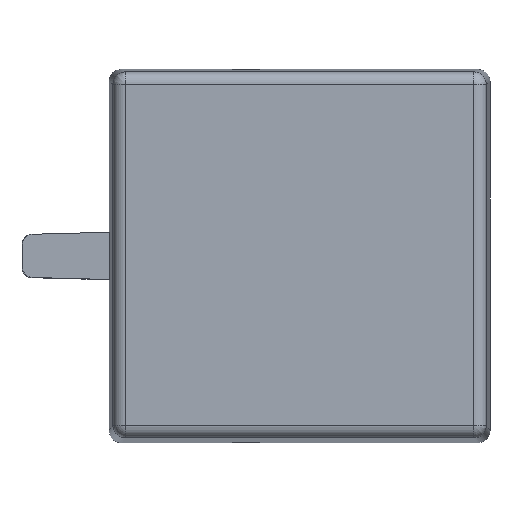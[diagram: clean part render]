
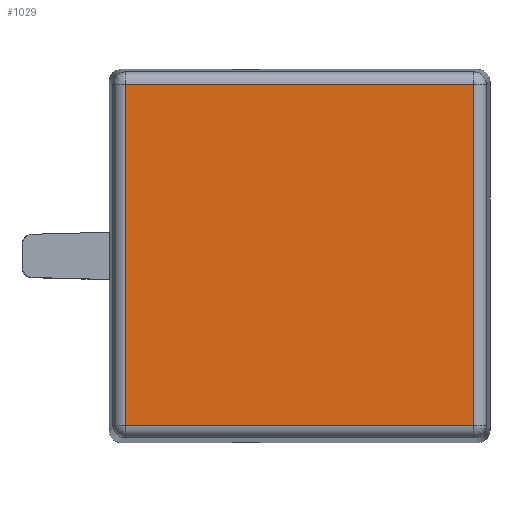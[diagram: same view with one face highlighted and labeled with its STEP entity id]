
A CAD part, top view. The second image highlights one B-rep face of the part: STEP entity #1029.
In plain terms, the highlighted planar face has unit normal (0, 0, 1).
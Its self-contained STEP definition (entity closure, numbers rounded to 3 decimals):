
#1029=ADVANCED_FACE('',(#2365),#2367,.T.);
#2365=FACE_BOUND('',#2366,.T.);
#2366=EDGE_LOOP('',(#2940,#2941,#2942,#2943));
#2367=PLANE('',#2368);
#2368=AXIS2_PLACEMENT_3D('',#2369,#2370,#2371);
#2369=CARTESIAN_POINT('',(0.,0.,29.3));
#2370=DIRECTION('',(0.,0.,1.));
#2371=DIRECTION('',(1.,0.,0.));
#2940=ORIENTED_EDGE('',*,*,#3214,.T.);
#2941=ORIENTED_EDGE('',*,*,#3211,.T.);
#2942=ORIENTED_EDGE('',*,*,#3224,.T.);
#2943=ORIENTED_EDGE('',*,*,#3221,.T.);
#3211=EDGE_CURVE('',#3678,#3676,#3679,.T.);
#3214=EDGE_CURVE('',#3682,#3678,#3683,.T.);
#3221=EDGE_CURVE('',#3690,#3682,#3691,.T.);
#3224=EDGE_CURVE('',#3676,#3690,#3694,.T.);
#3676=VERTEX_POINT('',#4736);
#3678=VERTEX_POINT('',#4741);
#3679=LINE('',#4742,#4743);
#3682=VERTEX_POINT('',#4753);
#3683=LINE('',#4754,#4755);
#3690=VERTEX_POINT('',#4777);
#3691=LINE('',#4778,#4779);
#3694=LINE('',#4789,#4790);
#4736=CARTESIAN_POINT('',(-2.41,-6.849,29.3));
#4741=CARTESIAN_POINT('',(-2.41,6.849,29.3));
#4742=CARTESIAN_POINT('',(-2.41,6.849,29.3));
#4743=VECTOR('',#4744,1.);
#4744=DIRECTION('',(0.,-1.,0.));
#4753=CARTESIAN_POINT('',(11.588,6.849,29.3));
#4754=CARTESIAN_POINT('',(11.588,6.849,29.3));
#4755=VECTOR('',#4756,1.);
#4756=DIRECTION('',(-1.,0.,0.));
#4777=CARTESIAN_POINT('',(11.588,-6.849,29.3));
#4778=CARTESIAN_POINT('',(11.588,-6.849,29.3));
#4779=VECTOR('',#4780,1.);
#4780=DIRECTION('',(0.,1.,0.));
#4789=CARTESIAN_POINT('',(-2.41,-6.849,29.3));
#4790=VECTOR('',#4791,1.);
#4791=DIRECTION('',(1.,0.,0.));
